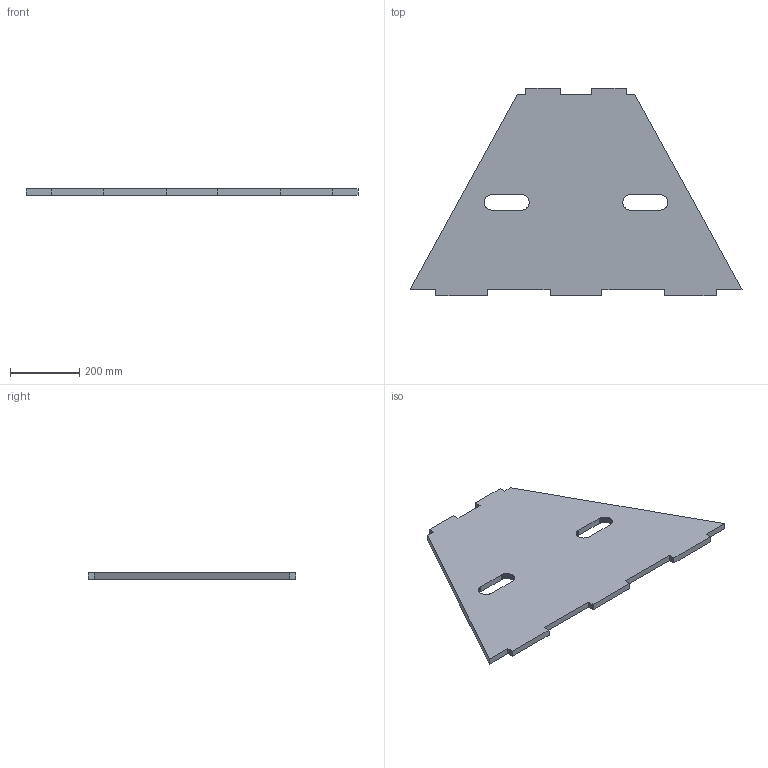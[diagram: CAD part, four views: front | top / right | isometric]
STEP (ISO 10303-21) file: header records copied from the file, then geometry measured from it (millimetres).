
FILE_DESCRIPTION(('Open CASCADE Model'),'2;1');
FILE_NAME('Open CASCADE Shape Model','2026-09-27T09:36:25',('Author'),( 'Open CASCADE'),'Open CASCADE STEP processor 7.9','Open CASCADE 7.9' ,'Unknown');
FILE_SCHEMA(('AUTOMOTIVE_DESIGN { 1 0 10303 214 1 1 1 1 }'));
Length unit declared in the file: millimetre
Products named in the file (1): Open CASCADE STEP translator 7.9 4
Bounding box: 958.92 x 600 x 18 mm (x, y, z)
Volume: 6603647.6 mm3; surface area: 794714.4 mm2
Topology: 1 solids, 1 shells, 126 faces, 372 edges, 248 vertices
Faces by surface type: plane 126
Entity records: 8570 total; most frequent: CARTESIAN_POINT 1891, DIRECTION 970, ORIENTED_EDGE 744, PCURVE 744, DEFINITIONAL_REPRESENTATION 744, LINE 716, VECTOR 716, B_SPLINE_CURVE_WITH_KNOTS 400
